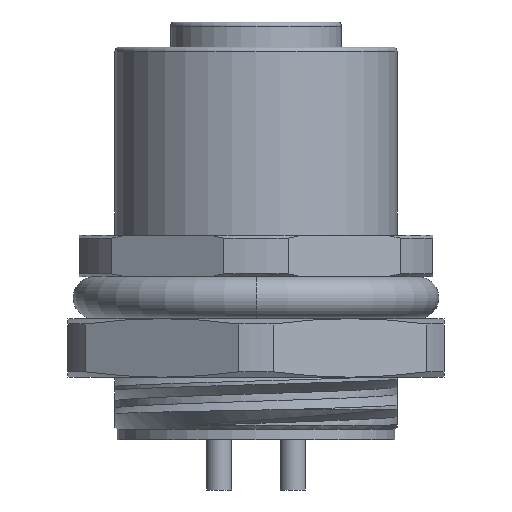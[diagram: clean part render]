
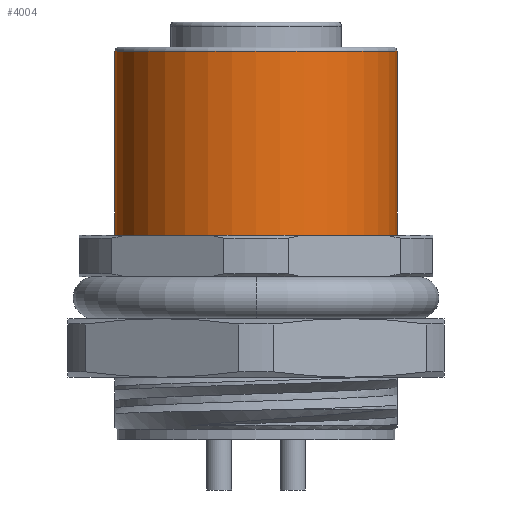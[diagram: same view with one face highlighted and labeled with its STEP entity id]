
A CAD part, front view. The second image highlights one B-rep face of the part: STEP entity #4004.
In plain terms, the highlighted cylindrical face has radius 6.75 mm (diameter 13.5 mm), a partial arc.
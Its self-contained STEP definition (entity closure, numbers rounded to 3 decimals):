
#134=CARTESIAN_POINT('',(0.,0.,-1.4));
#135=DIRECTION('',(0.,0.,-1.));
#136=DIRECTION('',(1.,0.,0.));
#137=AXIS2_PLACEMENT_3D('',#134,#135,#136);
#756=DIRECTION('',(0.,0.,1.));
#757=VECTOR('',#756,8.8);
#758=CARTESIAN_POINT('',(6.75,0.,-10.2));
#759=LINE('',#758,#757);
#760=DIRECTION('',(0.,0.,1.));
#761=VECTOR('',#760,8.8);
#762=CARTESIAN_POINT('',(-6.75,0.,-10.2));
#763=LINE('',#762,#761);
#769=CARTESIAN_POINT('',(0.,0.,-10.2));
#770=DIRECTION('',(0.,0.,-1.));
#771=DIRECTION('',(1.,0.,0.));
#772=AXIS2_PLACEMENT_3D('',#769,#770,#771);
#2650=CARTESIAN_POINT('',(6.75,0.,-10.2));
#2651=CARTESIAN_POINT('',(6.75,0.,-1.4));
#2652=VERTEX_POINT('',#2650);
#2653=VERTEX_POINT('',#2651);
#2660=CARTESIAN_POINT('',(-6.75,0.,-10.2));
#2661=CARTESIAN_POINT('',(-6.75,0.,-1.4));
#2662=VERTEX_POINT('',#2660);
#2663=VERTEX_POINT('',#2661);
#3992=CARTESIAN_POINT('',(0.,0.,-0.26));
#3993=DIRECTION('',(0.,0.,-1.));
#3994=DIRECTION('',(-1.,0.,0.));
#3995=AXIS2_PLACEMENT_3D('',#3992,#3993,#3994);
#3996=CYLINDRICAL_SURFACE('',#3995,6.75);
#3997=ORIENTED_EDGE('',*,*,#3982,.F.);
#3999=ORIENTED_EDGE('',*,*,#3998,.T.);
#4000=ORIENTED_EDGE('',*,*,#3985,.T.);
#4001=ORIENTED_EDGE('',*,*,#3040,.F.);
#4002=EDGE_LOOP('',(#3997,#3999,#4000,#4001));
#4003=FACE_OUTER_BOUND('',#4002,.F.);
#138=CIRCLE('',#137,6.75);
#773=CIRCLE('',#772,6.75);
#3040=EDGE_CURVE('',#2653,#2663,#138,.T.);
#3982=EDGE_CURVE('',#2652,#2653,#759,.T.);
#3985=EDGE_CURVE('',#2662,#2663,#763,.T.);
#3998=EDGE_CURVE('',#2652,#2662,#773,.T.);
#4004=ADVANCED_FACE('',(#4003),#3996,.T.);
